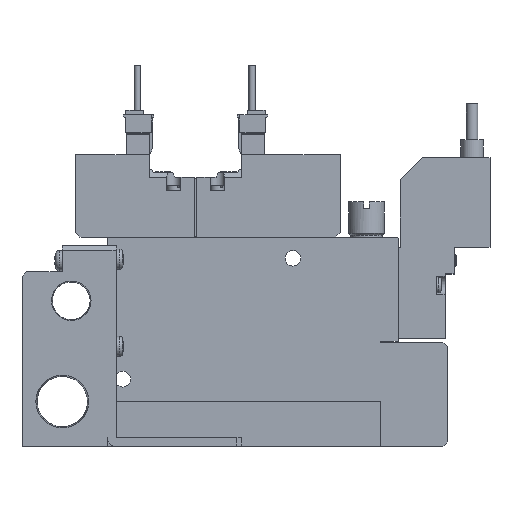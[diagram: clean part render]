
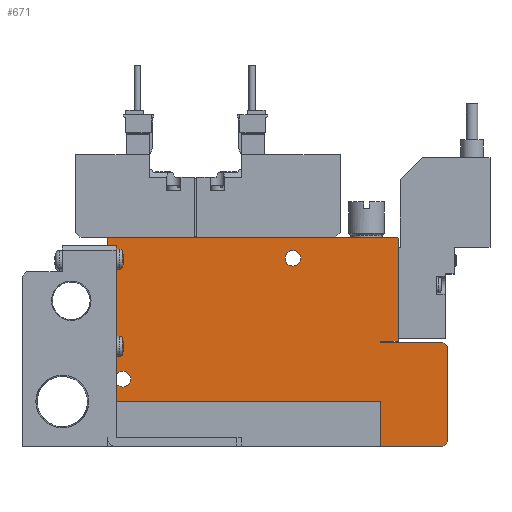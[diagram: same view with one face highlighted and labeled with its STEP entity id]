
A CAD part, top view. The second image highlights one B-rep face of the part: STEP entity #671.
In plain terms, the highlighted planar face has unit normal (0, 0, 1).
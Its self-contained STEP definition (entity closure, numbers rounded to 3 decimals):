
#671=ADVANCED_FACE('',(#1553,#1554,#1555),#1556,.F.);
#1553=FACE_OUTER_BOUND('',#2630,.T.);
#1554=FACE_BOUND('',#2631,.T.);
#1555=FACE_BOUND('',#2632,.T.);
#1556=PLANE('',#2633);
#2630=EDGE_LOOP('',(#5741,#5742,#5743,#5744,#5745,#5746,#5747,#5748,#5749,#5750,#5751,#5752,#5753,#5754));
#2631=EDGE_LOOP('',(#5755));
#2632=EDGE_LOOP('',(#5756));
#2633=AXIS2_PLACEMENT_3D('',#5757,#5758,#5759);
#5741=ORIENTED_EDGE('',*,*,#7611,.T.);
#5742=ORIENTED_EDGE('',*,*,#7589,.F.);
#5743=ORIENTED_EDGE('',*,*,#7565,.F.);
#5744=ORIENTED_EDGE('',*,*,#7534,.T.);
#5745=ORIENTED_EDGE('',*,*,#7512,.T.);
#5746=ORIENTED_EDGE('',*,*,#7555,.T.);
#5747=ORIENTED_EDGE('',*,*,#7597,.T.);
#5748=ORIENTED_EDGE('',*,*,#7612,.T.);
#5749=ORIENTED_EDGE('',*,*,#7584,.T.);
#5750=ORIENTED_EDGE('',*,*,#7613,.T.);
#5751=ORIENTED_EDGE('',*,*,#7581,.T.);
#5752=ORIENTED_EDGE('',*,*,#7588,.T.);
#5753=ORIENTED_EDGE('',*,*,#7614,.T.);
#5754=ORIENTED_EDGE('',*,*,#7499,.T.);
#5755=ORIENTED_EDGE('',*,*,#7592,.F.);
#5756=ORIENTED_EDGE('',*,*,#7586,.F.);
#5757=CARTESIAN_POINT('',(0.0,0.0,5.0));
#5758=DIRECTION('',(0.0,0.0,-1.0));
#5759=DIRECTION('',(0.0,-1.0,0.0));
#7499=EDGE_CURVE('',#9204,#9202,#9205,.T.);
#7512=EDGE_CURVE('',#9230,#9228,#9231,.T.);
#7534=EDGE_CURVE('',#9268,#9230,#9271,.T.);
#7555=EDGE_CURVE('',#9228,#9308,#9310,.T.);
#7565=EDGE_CURVE('',#9268,#9327,#9328,.T.);
#7581=EDGE_CURVE('',#9352,#9350,#9353,.T.);
#7584=EDGE_CURVE('',#9357,#9355,#9358,.T.);
#7586=EDGE_CURVE('',#9360,#9360,#9361,.T.);
#7588=EDGE_CURVE('',#9350,#9362,#9364,.T.);
#7589=EDGE_CURVE('',#9327,#9365,#9366,.T.);
#7592=EDGE_CURVE('',#9369,#9369,#9370,.T.);
#7597=EDGE_CURVE('',#9308,#9374,#9376,.T.);
#7611=EDGE_CURVE('',#9202,#9365,#9395,.T.);
#7612=EDGE_CURVE('',#9374,#9357,#9396,.T.);
#7613=EDGE_CURVE('',#9355,#9352,#9397,.T.);
#7614=EDGE_CURVE('',#9362,#9204,#9398,.T.);
#9202=VERTEX_POINT('',#12019);
#9204=VERTEX_POINT('',#12022);
#9205=LINE('',#12023,#12024);
#9228=VERTEX_POINT('',#12053);
#9230=VERTEX_POINT('',#12056);
#9231=LINE('',#12057,#12058);
#9268=VERTEX_POINT('',#12112);
#9271=LINE('',#12117,#12118);
#9308=VERTEX_POINT('',#12171);
#9310=LINE('',#12174,#12175);
#9327=VERTEX_POINT('',#12199);
#9328=LINE('',#12200,#12201);
#9350=VERTEX_POINT('',#12232);
#9352=VERTEX_POINT('',#12235);
#9353=LINE('',#12236,#12237);
#9355=VERTEX_POINT('',#12240);
#9357=VERTEX_POINT('',#12243);
#9358=LINE('',#12244,#12245);
#9360=VERTEX_POINT('',#12248);
#9361=CIRCLE('',#12249,1.75);
#9362=VERTEX_POINT('',#12250);
#9364=LINE('',#12253,#12254);
#9365=VERTEX_POINT('',#12255);
#9366=LINE('',#12256,#12257);
#9369=VERTEX_POINT('',#12262);
#9370=CIRCLE('',#12263,1.75);
#9374=VERTEX_POINT('',#12270);
#9376=LINE('',#12273,#12274);
#9395=LINE('',#12303,#12304);
#9396=LINE('',#12305,#12306);
#9397=LINE('',#12307,#12308);
#9398=LINE('',#12309,#12310);
#12019=CARTESIAN_POINT('',(0.0,46.4,5.0));
#12022=CARTESIAN_POINT('',(0.2,46.6,5.0));
#12023=CARTESIAN_POINT('',(0.2,46.6,5.0));
#12024=VECTOR('',#14328,1.0);
#12053=CARTESIAN_POINT('',(76.0,1.0,5.0));
#12056=CARTESIAN_POINT('',(75.0,0.0,5.0));
#12057=CARTESIAN_POINT('',(75.0,0.0,5.0));
#12058=VECTOR('',#14351,1.0);
#12112=CARTESIAN_POINT('',(61.1,0.0,5.0));
#12117=CARTESIAN_POINT('',(0.0,0.0,5.0));
#12118=VECTOR('',#14377,1.0);
#12171=CARTESIAN_POINT('',(76.0,22.25,5.0));
#12174=CARTESIAN_POINT('',(76.0,1.0,5.0));
#12175=VECTOR('',#14404,1.0);
#12199=CARTESIAN_POINT('',(61.1,10.1,5.0));
#12200=CARTESIAN_POINT('',(61.1,0.0,5.0));
#12201=VECTOR('',#14418,1.0);
#12232=CARTESIAN_POINT('',(65.0,46.4,5.0));
#12235=CARTESIAN_POINT('',(65.0,23.5,5.0));
#12236=CARTESIAN_POINT('',(65.0,23.5,5.0));
#12237=VECTOR('',#14444,1.0);
#12240=CARTESIAN_POINT('',(61.0,23.5,5.0));
#12243=CARTESIAN_POINT('',(61.0,23.25,5.0));
#12244=CARTESIAN_POINT('',(61.0,23.25,5.0));
#12245=VECTOR('',#14447,1.0);
#12248=CARTESIAN_POINT('',(43.25,42.0,5.0));
#12249=AXIS2_PLACEMENT_3D('',#14449,#14450,#14451);
#12250=CARTESIAN_POINT('',(64.8,46.6,5.0));
#12253=CARTESIAN_POINT('',(65.0,46.4,5.0));
#12254=VECTOR('',#14453,1.0);
#12255=CARTESIAN_POINT('',(0.0,10.1,5.0));
#12256=CARTESIAN_POINT('',(61.1,10.1,5.0));
#12257=VECTOR('',#14454,1.0);
#12262=CARTESIAN_POINT('',(5.25,15.0,5.0));
#12263=AXIS2_PLACEMENT_3D('',#14457,#14458,#14459);
#12270=CARTESIAN_POINT('',(75.0,23.25,5.0));
#12273=CARTESIAN_POINT('',(76.0,22.25,5.0));
#12274=VECTOR('',#14464,1.0);
#12303=CARTESIAN_POINT('',(0.0,46.4,5.0));
#12304=VECTOR('',#14484,1.0);
#12305=CARTESIAN_POINT('',(75.0,23.25,5.0));
#12306=VECTOR('',#14485,1.0);
#12307=CARTESIAN_POINT('',(61.0,23.5,5.0));
#12308=VECTOR('',#14486,1.0);
#12309=CARTESIAN_POINT('',(64.8,46.6,5.0));
#12310=VECTOR('',#14487,1.0);
#14328=DIRECTION('',(-0.707,-0.707,0.0));
#14351=DIRECTION('',(0.707,0.707,0.0));
#14377=DIRECTION('',(1.0,0.0,0.0));
#14404=DIRECTION('',(0.0,1.0,0.0));
#14418=DIRECTION('',(0.0,1.0,0.0));
#14444=DIRECTION('',(0.0,1.0,0.0));
#14447=DIRECTION('',(0.0,1.0,0.0));
#14449=CARTESIAN_POINT('',(41.5,42.0,5.0));
#14450=DIRECTION('',(0.0,0.0,1.0));
#14451=DIRECTION('',(1.0,0.0,0.0));
#14453=DIRECTION('',(-0.707,0.707,0.0));
#14454=DIRECTION('',(-1.0,0.0,0.0));
#14457=CARTESIAN_POINT('',(3.5,15.0,5.0));
#14458=DIRECTION('',(0.0,0.0,1.0));
#14459=DIRECTION('',(1.0,0.0,0.0));
#14464=DIRECTION('',(-0.707,0.707,0.0));
#14484=DIRECTION('',(0.0,-1.0,0.0));
#14485=DIRECTION('',(-1.0,0.0,0.0));
#14486=DIRECTION('',(1.0,0.,0.0));
#14487=DIRECTION('',(-1.0,0.0,0.0));
